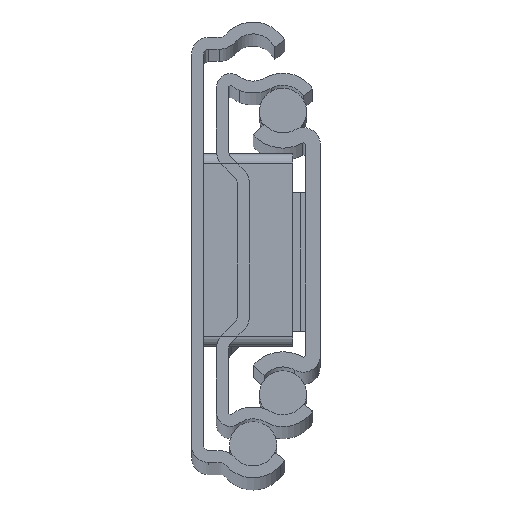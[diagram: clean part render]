
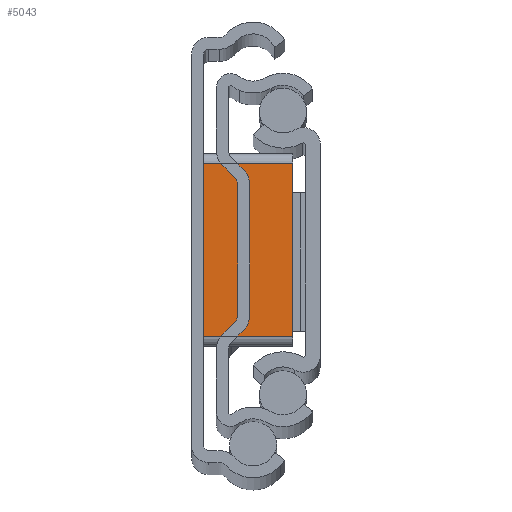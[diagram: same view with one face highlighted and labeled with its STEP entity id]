
A CAD part, top view. The second image highlights one B-rep face of the part: STEP entity #5043.
In plain terms, the highlighted planar face has unit normal (0, 0, 1).
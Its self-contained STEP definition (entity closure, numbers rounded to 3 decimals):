
#942=LINE('',#8671,#1399);
#943=LINE('',#8674,#1400);
#944=LINE('',#8676,#1401);
#945=LINE('',#8677,#1402);
#1399=VECTOR('',#7034,9.);
#1400=VECTOR('',#7037,17.5);
#1401=VECTOR('',#7038,17.5);
#1402=VECTOR('',#7039,9.);
#1534=PLANE('',#5563);
#1794=FACE_OUTER_BOUND('',#2137,.T.);
#2137=EDGE_LOOP('',(#4757,#4758,#4759,#4760));
#2628=VERTEX_POINT('',#8667);
#2629=VERTEX_POINT('',#8669);
#2630=VERTEX_POINT('',#8673);
#2631=VERTEX_POINT('',#8675);
#3342=EDGE_CURVE('',#2628,#2629,#942,.T.);
#3343=EDGE_CURVE('',#2628,#2630,#943,.T.);
#3344=EDGE_CURVE('',#2631,#2629,#944,.T.);
#3345=EDGE_CURVE('',#2630,#2631,#945,.T.);
#4757=ORIENTED_EDGE('',*,*,#3343,.F.);
#4758=ORIENTED_EDGE('',*,*,#3342,.T.);
#4759=ORIENTED_EDGE('',*,*,#3344,.F.);
#4760=ORIENTED_EDGE('',*,*,#3345,.F.);
#5043=ADVANCED_FACE('',(#1794),#1534,.T.);
#5563=AXIS2_PLACEMENT_3D('',#8672,#7035,#7036);
#7034=DIRECTION('',(1.,0.,0.));
#7035=DIRECTION('center_axis',(0.,0.,1.));
#7036=DIRECTION('ref_axis',(0.,-1.,0.));
#7037=DIRECTION('',(0.,1.,0.));
#7038=DIRECTION('',(0.,-1.,0.));
#7039=DIRECTION('',(1.,0.,0.));
#8667=CARTESIAN_POINT('',(-11.78,-8.75,348.));
#8669=CARTESIAN_POINT('',(-2.78,-8.75,348.));
#8671=CARTESIAN_POINT('',(-11.78,-8.75,348.));
#8672=CARTESIAN_POINT('Origin',(-11.78,8.75,348.));
#8673=CARTESIAN_POINT('',(-11.78,8.75,348.));
#8674=CARTESIAN_POINT('',(-11.78,-8.75,348.));
#8675=CARTESIAN_POINT('',(-2.78,8.75,348.));
#8676=CARTESIAN_POINT('',(-2.78,-8.75,348.));
#8677=CARTESIAN_POINT('',(-11.78,8.75,348.));
